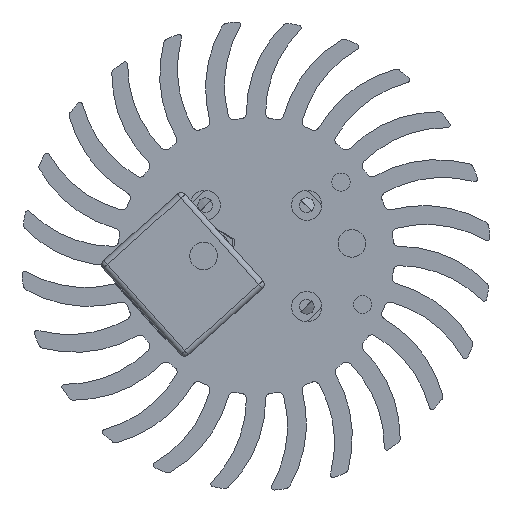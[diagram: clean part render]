
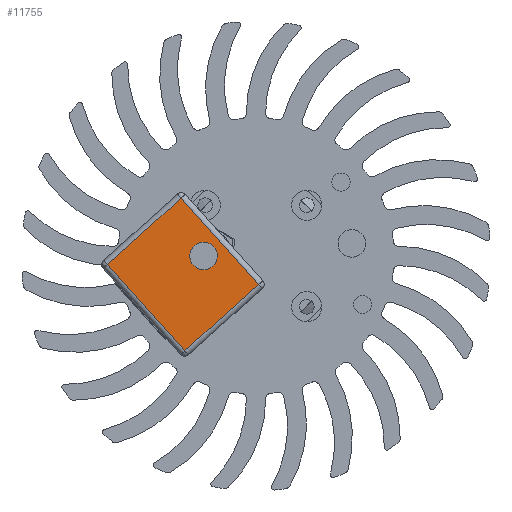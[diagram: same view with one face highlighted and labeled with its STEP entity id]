
A CAD part, left-side view. The second image highlights one B-rep face of the part: STEP entity #11755.
In plain terms, the highlighted planar face has unit normal (-1, 0, 0).
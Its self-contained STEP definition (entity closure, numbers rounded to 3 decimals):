
#104 = EDGE_LOOP ( 'NONE', ( #546, #2797, #5963, #17557 ) ) ;
#262 = EDGE_CURVE ( 'NONE', #7248, #18040, #14771, .T. ) ;
#546 = ORIENTED_EDGE ( 'NONE', *, *, #11350, .T. ) ;
#785 = CARTESIAN_POINT ( 'NONE',  ( -220., 13.098, -5.219 ) ) ;
#1199 = VECTOR ( 'NONE', #6069, 1000. ) ;
#1899 = CARTESIAN_POINT ( 'NONE',  ( -220., 41.933, -1.535 ) ) ;
#2182 = FACE_BOUND ( 'NONE', #12956, .T. ) ;
#2271 = DIRECTION ( 'NONE',  ( 0., -0.744, 0.668 ) ) ;
#2797 = ORIENTED_EDGE ( 'NONE', *, *, #3116, .T. ) ;
#3116 = EDGE_CURVE ( 'NONE', #13371, #17809, #7420, .T. ) ;
#3340 = VERTEX_POINT ( 'NONE', #16200 ) ;
#3773 = CARTESIAN_POINT ( 'NONE',  ( -220., 14.51, -5.143 ) ) ;
#4237 = CARTESIAN_POINT ( 'NONE',  ( -220., 13.843, -5.887 ) ) ;
#4588 = CARTESIAN_POINT ( 'NONE',  ( -220., 28.536, 10.487 ) ) ;
#4987 = FACE_OUTER_BOUND ( 'NONE', #104, .T. ) ;
#5865 = CARTESIAN_POINT ( 'NONE',  ( -220., 27.792, 11.154 ) ) ;
#5963 = ORIENTED_EDGE ( 'NONE', *, *, #9668, .T. ) ;
#6069 = DIRECTION ( 'NONE',  ( 0., -0.668, -0.744 ) ) ;
#6243 = CARTESIAN_POINT ( 'NONE',  ( -220., 27.239, -17.909 ) ) ;
#6795 = AXIS2_PLACEMENT_3D ( 'NONE', #8923, #7419, #17637 ) ;
#7248 = VERTEX_POINT ( 'NONE', #4588 ) ;
#7419 = DIRECTION ( 'NONE',  ( 1., 0., 0. ) ) ;
#7420 = LINE ( 'NONE', #11637, #16587 ) ;
#7611 = DIRECTION ( 'NONE',  ( 0., -0.744, 0.668 ) ) ;
#8923 = CARTESIAN_POINT ( 'NONE',  ( -220., 24.5, 0. ) ) ;
#9668 = EDGE_CURVE ( 'NONE', #17809, #7248, #11377, .T. ) ;
#9823 = VECTOR ( 'NONE', #17513, 1000. ) ;
#10830 = DIRECTION ( 'NONE',  ( 1., 0., 0. ) ) ;
#11283 = DIRECTION ( 'NONE',  ( 0., 0.668, 0.744 ) ) ;
#11350 = EDGE_CURVE ( 'NONE', #18040, #13371, #14774, .T. ) ;
#11377 = LINE ( 'NONE', #4237, #13163 ) ;
#11637 = CARTESIAN_POINT ( 'NONE',  ( -220., 13.766, -4.475 ) ) ;
#11755 = ADVANCED_FACE ( 'NONE', ( #2182, #4987 ), #15118, .F. ) ;
#12956 = EDGE_LOOP ( 'NONE', ( #13275 ) ) ;
#13163 = VECTOR ( 'NONE', #11283, 1000. ) ;
#13275 = ORIENTED_EDGE ( 'NONE', *, *, #16642, .T. ) ;
#13371 = VERTEX_POINT ( 'NONE', #16967 ) ;
#14326 = AXIS2_PLACEMENT_3D ( 'NONE', #785, #10830, #2271 ) ;
#14771 = LINE ( 'NONE', #5865, #9823 ) ;
#14774 = LINE ( 'NONE', #6243, #1199 ) ;
#15118 = PLANE ( 'NONE',  #14326 ) ;
#16200 = CARTESIAN_POINT ( 'NONE',  ( -220., 22.64, 1.67 ) ) ;
#16587 = VECTOR ( 'NONE', #7611, 1000. ) ;
#16642 = EDGE_CURVE ( 'NONE', #3340, #3340, #17881, .T. ) ;
#16967 = CARTESIAN_POINT ( 'NONE',  ( -220., 27.907, -17.165 ) ) ;
#17513 = DIRECTION ( 'NONE',  ( 0., 0.744, -0.668 ) ) ;
#17557 = ORIENTED_EDGE ( 'NONE', *, *, #262, .T. ) ;
#17637 = DIRECTION ( 'NONE',  ( 0., -0.744, 0.668 ) ) ;
#17809 = VERTEX_POINT ( 'NONE', #3773 ) ;
#17881 = CIRCLE ( 'NONE', #6795, 2.5 ) ;
#18040 = VERTEX_POINT ( 'NONE', #1899 ) ;
